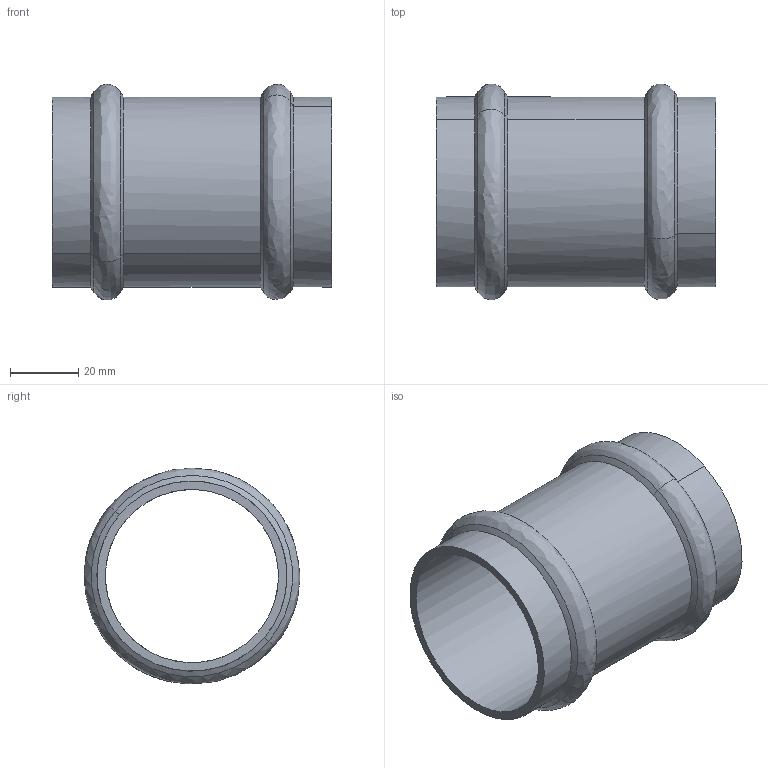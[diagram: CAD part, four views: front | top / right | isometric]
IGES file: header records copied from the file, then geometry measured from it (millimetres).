
Start section: 3D InterOp IGES (Version 25 0 1), Spatial Corp. Copyright (c) 1999-2007.
Global section: file name: pim0004418.igs; native system: Spatial Corp.; preprocessor: 3D InterOp ACIS/IGES; author: Cad-Pim; organization: TransMagic, Inc.; date: 20150430.065706; units: millimetre
Bounding box: 82 x 63.26 x 63.25 mm (x, y, z)
Volume: 43662.7 mm3; surface area: 29829.5 mm2
Topology: 1 solids, 1 shells, 22 faces, 58 edges, 38 vertices
Faces by surface type: cylinder 8, cone 8, bspline 6
